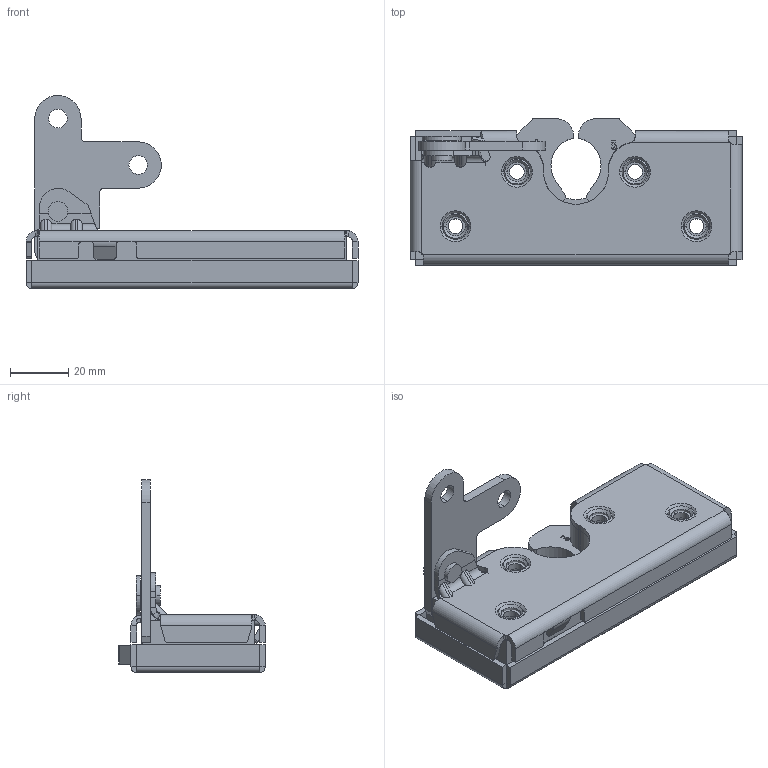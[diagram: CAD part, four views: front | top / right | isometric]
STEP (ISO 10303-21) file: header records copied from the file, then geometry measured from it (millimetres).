
FILE_DESCRIPTION((''),'2;1');
FILE_NAME('18610-01','2025-06-05T07:02:24',('GDE01'),(''),'CREO PARAMETRIC BY PTC INC, 2024014','CREO PARAMETRIC BY PTC INC, 2024014','');
FILE_SCHEMA(('CONFIG_CONTROL_DESIGN'));
Length unit declared in the file: inch
Products named in the file (1): 18610-01
Bounding box: 113.74 x 50.24 x 66.09 mm (x, y, z)
Volume: 74638.9 mm3; surface area: 45541.1 mm2
Topology: 2 solids, 12 shells, 998 faces, 2535 edges, 1625 vertices
Faces by surface type: plane 651, cylinder 234, cone 76, bspline 29, torus 8
Entity records: 36167 total; most frequent: CARTESIAN_POINT 11955, ORIENTED_EDGE 5054, DIRECTION 4877, EDGE_CURVE 2529, VECTOR 1859, LINE 1859, VERTEX_POINT 1623, AXIS2_PLACEMENT_3D 1509
